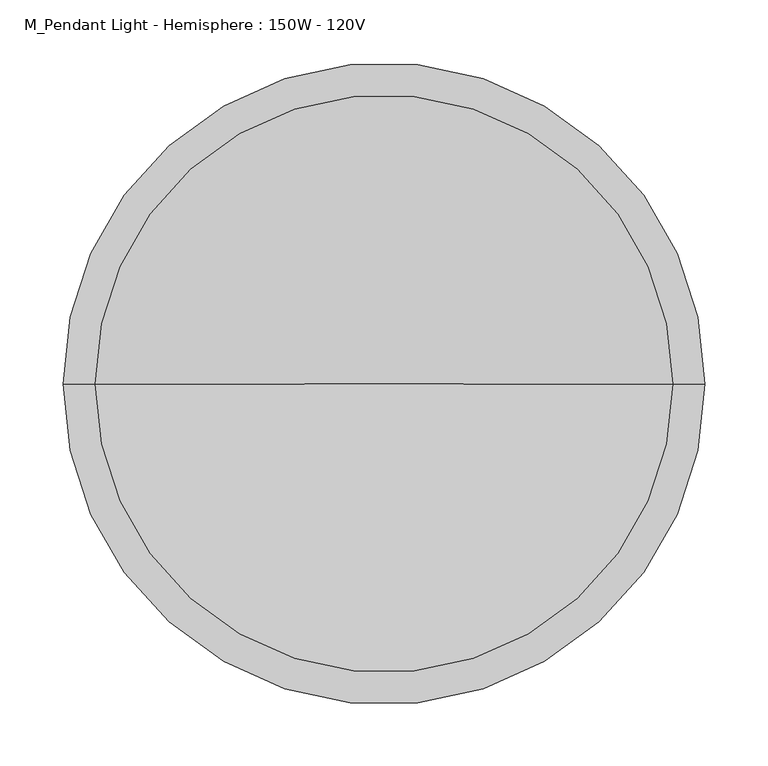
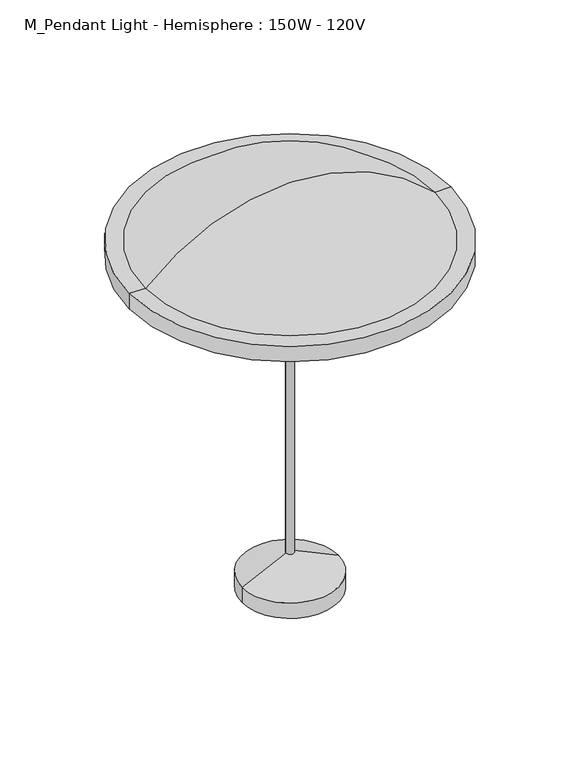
"""IFC4 building model written with IfcOpenShell, lengths in millimetres: light fixture geometry, M_Pendant Light - Hemisphere : 150W - 120V."""

from ifc_helpers import new_model, si_unit, point, frame, origin, origin_with_axes, place, context, project, spatial, polyline, circle_curve, ellipse_curve, trimmed, source, transform, mapped, element, save
from ifc_brep_helpers import plane_surface, cylinder_surface, revolved_surface, advanced_brep


def m_pendant_light_hemisphere_150w_120v_8bc6cad5(model_context):
    return source(origin(), model_context, "Body", "AdvancedBrep", [
        advanced_brep(
        [(-6.35, 0.0, 598.8), (6.35, 0.0, 598.8), (-76.2, 0.0, 0.0), (76.2, 0.0, 0.0), (-6.35, 0.0, 58.1421875), (6.35, 0.0, 58.1421875), (76.2, 0.0, 25.4), (-76.2, 0.0, 25.4)],
        [
            (0, 1, circle_curve(frame((0.0, 0.0, 598.8), z_axis=(0.0, 0.0, 1.0), x_axis=(1.0, 0.0, 0.0)), 6.35)),
            (1, 0, circle_curve(frame((0.0, 0.0, 598.8), z_axis=(0.0, 0.0, 1.0), x_axis=(1.0, 0.0, 0.0)), 6.35)),
            (2, 3, circle_curve(frame((0.0, 0.0, 0.0), z_axis=(0.0, 0.0, -1.0), x_axis=(-1.0, 0.0, 0.0)), 76.2)),
            (3, 2, circle_curve(frame((0.0, 0.0, 0.0), z_axis=(0.0, 0.0, -1.0), x_axis=(-1.0, 0.0, 0.0)), 76.2)),
            (0, 4),
            (4, 5, circle_curve(frame((0.0, 0.0, 58.1421875), z_axis=(0.0, 0.0, 1.0), x_axis=(1.0, 0.0, 0.0)), 6.35)),
            (5, 1),
            (5, 4, circle_curve(frame((0.0, 0.0, 58.1421875), z_axis=(0.0, 0.0, 1.0), x_axis=(1.0, 0.0, 0.0)), 6.35)),
            (6, 7, circle_curve(frame((0.0, 0.0, 25.4), z_axis=(0.0, 0.0, 1.0), x_axis=(-1.0, 0.0, 0.0)), 76.2)),
            (7, 4),
            (5, 6),
            (7, 6, circle_curve(frame((0.0, 0.0, 25.4), z_axis=(0.0, 0.0, 1.0), x_axis=(-1.0, 0.0, 0.0)), 76.2)),
            (2, 7),
            (6, 3),
        ],
        [
            plane_surface(frame((6.35, 0.0, 598.8), z_axis=(0.0, 0.0, 1.0), x_axis=(0.0, 1.0, 0.0))),
            plane_surface(frame((6.35, 0.0, 0.0), z_axis=(0.0, 0.0, -1.0), x_axis=(0.0, -1.0, 0.0))),
            cylinder_surface(origin_with_axes(), 6.35),
            revolved_surface(polyline([(0.0, 0.0, 61.11875), (-76.2, 0.0, 25.4)]), (0.0, 0.0, -44.5149987), (0.0, 0.0, -1.0)),
            cylinder_surface(frame((0.0, 0.0, -44.5149987), z_axis=(0.0, 0.0, -1.0), x_axis=(-1.0, 0.0, 0.0)), 76.2),
        ],
        [
            (0, [[1, 2]]),
            (1, [[3, 4]]),
            (2, [[-1, 5, 6, 7]]),
            (2, [[-2, -7, 8, -5]]),
            (3, [[9, 10, -8, 11]]),
            (3, [[12, -11, -6, -10]]),
            (4, [[-3, 13, -9, 14]]),
            (4, [[-4, -14, -12, -13]]),
        ],
    ),
        advanced_brep(
        [(218.28125, 0.0, 552.7625), (-218.28125, 0.0, 552.7625), (-254.0, 0.0, 552.7625), (254.0, 0.0, 552.7625), (0.0, 0.0, 649.6), (228.6, 0.0, 578.1625), (-228.6, 0.0, 578.1625), (0.0, 0.0, 675.0), (254.0, 0.0, 578.1625), (-254.0, 0.0, 578.1625)],
        [
            (0, 1, circle_curve(frame((0.0, 0.0, 552.7625), z_axis=(0.0, 0.0, 1.0), x_axis=(-1.0, 0.0, 0.0)), 218.28125)),
            (1, 2),
            (2, 3, circle_curve(frame((0.0, 0.0, 552.7625), z_axis=(0.0, 0.0, -1.0), x_axis=(-1.0, 0.0, 0.0)), 254.0)),
            (3, 0),
            (1, 0, circle_curve(frame((0.0, 0.0, 552.7625), z_axis=(0.0, 0.0, 1.0), x_axis=(-1.0, 0.0, 0.0)), 218.28125)),
            (3, 2, circle_curve(frame((0.0, 0.0, 552.7625), z_axis=(0.0, 0.0, -1.0), x_axis=(-1.0, 0.0, 0.0)), 254.0)),
            (4, 1, circle_curve(frame((7.2905558, 0.0, 338.7339163), z_axis=(0.0, -1.0, 0.0), x_axis=(1.0, 0.0, 0.0)), 310.9515625)),
            (0, 4, circle_curve(frame((-7.2905558, 0.0, 338.7339163), z_axis=(0.0, -1.0, 0.0), x_axis=(-1.0, 0.0, 0.0)), 310.9515625)),
            (5, 6, circle_curve(frame((0.0, 0.0, 578.1625), z_axis=(0.0, 0.0, 1.0), x_axis=(-1.0, 0.0, 0.0)), 228.6)),
            (6, 7, circle_curve(frame((6.0510717, 0.0, 342.473802), z_axis=(0.0, 1.0, 0.0), x_axis=(1.0, 0.0, 0.0)), 332.58125)),
            (7, 5, circle_curve(frame((-6.0510717, 0.0, 342.473802), z_axis=(0.0, 1.0, 0.0), x_axis=(-1.0, 0.0, 0.0)), 332.58125)),
            (6, 5, circle_curve(frame((0.0, 0.0, 578.1625), z_axis=(0.0, 0.0, 1.0), x_axis=(-1.0, 0.0, 0.0)), 228.6)),
            (8, 9, circle_curve(frame((0.0, 0.0, 578.1625), z_axis=(0.0, 0.0, 1.0), x_axis=(-1.0, 0.0, 0.0)), 254.0)),
            (9, 6),
            (5, 8),
            (9, 8, circle_curve(frame((0.0, 0.0, 578.1625), z_axis=(0.0, 0.0, 1.0), x_axis=(-1.0, 0.0, 0.0)), 254.0)),
            (2, 9),
            (8, 3),
        ],
        [
            plane_surface(frame((0.0, 0.0, 552.7625), z_axis=(0.0, 0.0, -1.0), x_axis=(-1.0, 0.0, 0.0))),
            revolved_surface(trimmed(ellipse_curve(frame((7.2905558, 0.0, 338.7339163), z_axis=(0.0, 1.0, 0.0), x_axis=(1.0, 0.0, 0.0)), 310.9515625, 310.9515625), [point((-218.28125, 0.0, 552.7625))], [point((0.0, 0.0, 649.6))], True, "CARTESIAN"), (0.0, 0.0, 625.9377177), (0.0, 0.0, -1.0)),
            revolved_surface(trimmed(ellipse_curve(frame((6.0510717, 0.0, 342.473802), z_axis=(0.0, -1.0, 0.0), x_axis=(1.0, 0.0, 0.0)), 332.58125, 332.58125), [point((0.0, 0.0, 675.0))], [point((-228.6, 0.0, 578.1625))], True, "CARTESIAN"), (0.0, 0.0, 625.9377177), (0.0, 0.0, -1.0)),
            plane_surface(frame((0.0, 0.0, 578.1625), z_axis=(0.0, 0.0, 1.0), x_axis=(-1.0, 0.0, 0.0))),
            cylinder_surface(frame((0.0, 0.0, 625.9377177), z_axis=(0.0, 0.0, -1.0), x_axis=(-1.0, 0.0, 0.0)), 254.0),
        ],
        [
            (0, [[1, 2, 3, 4]]),
            (0, [[5, -4, 6, -2]]),
            (1, [[7, -1, 8]]),
            (1, [[-8, -5, -7]]),
            (2, [[9, 10, 11]]),
            (2, [[12, -11, -10]]),
            (3, [[13, 14, -9, 15]]),
            (3, [[16, -15, -12, -14]]),
            (4, [[-3, 17, -13, 18]]),
            (4, [[-6, -18, -16, -17]]),
        ],
    ),
    ])


if __name__ == "__main__":
    model = new_model("IFC4")
    model_context = context("Model", 3, world=origin())
    ifc_project = project(units=[si_unit("LENGTHUNIT", "METRE", prefix="MILLI")], contexts=[model_context])
    site = spatial("IfcSite", under=ifc_project)
    building = spatial("IfcBuilding", under=site)
    placement = place(None, origin())
    m_pendant_light_hemisphere_150w_120v_shape = m_pendant_light_hemisphere_150w_120v_8bc6cad5(model_context)
    element("IfcLightFixture", 1, ObjectType="M_Pendant Light - Hemisphere : 150W - 120V", at=placement, inside=building, context=model_context, shape_type="MappedRepresentation", body=[
        mapped(m_pendant_light_hemisphere_150w_120v_shape, transform((0.0, 0.0, 0.0), x_axis=(1.0, 0.0, 0.0), y_axis=(0.0, 1.0, 0.0), z_axis=(0.0, 0.0, 1.0))),
    ])
    save(model, "model.ifc")
